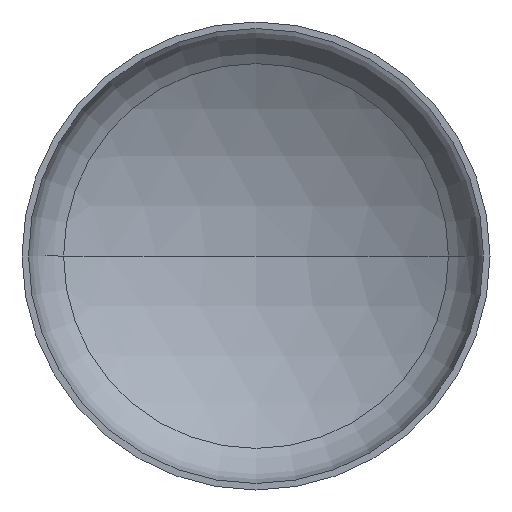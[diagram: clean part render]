
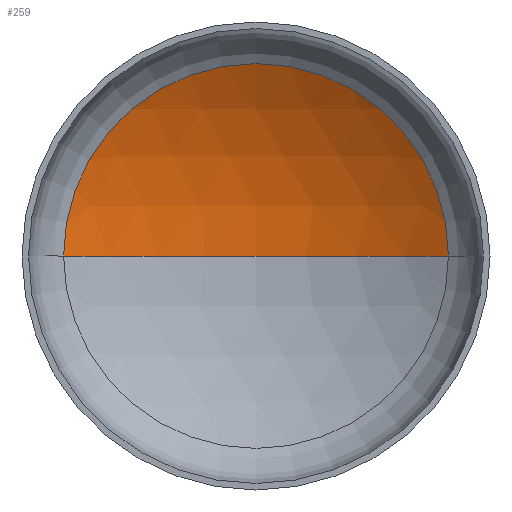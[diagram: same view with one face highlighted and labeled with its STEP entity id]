
A CAD part, front view. The second image highlights one B-rep face of the part: STEP entity #259.
In plain terms, the highlighted spherical face has radius 2880 mm.
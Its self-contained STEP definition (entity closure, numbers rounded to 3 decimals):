
#2 = AXIS2_PLACEMENT_3D ( 'NONE', #154, #156, #247 ) ;
#12 = AXIS2_PLACEMENT_3D ( 'NONE', #172, #29, #176 ) ;
#20 = EDGE_LOOP ( 'NONE', ( #147, #105, #57 ) ) ;
#29 = DIRECTION ( 'NONE',  ( 0., 0., -1. ) ) ;
#33 = AXIS2_PLACEMENT_3D ( 'NONE', #165, #196, #364 ) ;
#35 = AXIS2_PLACEMENT_3D ( 'NONE', #185, #343, #321 ) ;
#37 = VERTEX_POINT ( 'NONE', #355 ) ;
#57 = ORIENTED_EDGE ( 'NONE', *, *, #78, .T. ) ;
#78 = EDGE_CURVE ( 'NONE', #37, #90, #192, .T. ) ;
#90 = VERTEX_POINT ( 'NONE', #184 ) ;
#91 = EDGE_CURVE ( 'NONE', #128, #37, #318, .T. ) ;
#105 = ORIENTED_EDGE ( 'NONE', *, *, #91, .T. ) ;
#128 = VERTEX_POINT ( 'NONE', #208 ) ;
#142 = CIRCLE ( 'NONE', #2, 2880. ) ;
#147 = ORIENTED_EDGE ( 'NONE', *, *, #357, .F. ) ;
#154 = CARTESIAN_POINT ( 'NONE',  ( 0., -1844.392, 0. ) ) ;
#156 = DIRECTION ( 'NONE',  ( 0., 0., 1. ) ) ;
#165 = CARTESIAN_POINT ( 'NONE',  ( 0., -1844.392, 0. ) ) ;
#172 = CARTESIAN_POINT ( 'NONE',  ( 0., -1844.392, 0. ) ) ;
#176 = DIRECTION ( 'NONE',  ( -1., 0., 0. ) ) ;
#184 = CARTESIAN_POINT ( 'NONE',  ( -1480.258, 626.081, 0. ) ) ;
#185 = CARTESIAN_POINT ( 'NONE',  ( 0., 626.081, 0. ) ) ;
#192 = CIRCLE ( 'NONE', #35, 1480.258 ) ;
#196 = DIRECTION ( 'NONE',  ( 0., 0., -1. ) ) ;
#208 = CARTESIAN_POINT ( 'NONE',  ( 0., 1035.608, 0. ) ) ;
#247 = DIRECTION ( 'NONE',  ( 1., 0., 0. ) ) ;
#259 = ADVANCED_FACE ( 'NONE', ( #410 ), #303, .F. ) ;
#303 = SPHERICAL_SURFACE ( 'NONE', #12, 2880. ) ;
#318 = CIRCLE ( 'NONE', #33, 2880. ) ;
#321 = DIRECTION ( 'NONE',  ( 1., 0., 0. ) ) ;
#343 = DIRECTION ( 'NONE',  ( 0., -1., 0. ) ) ;
#355 = CARTESIAN_POINT ( 'NONE',  ( 1480.258, 626.081, 0. ) ) ;
#357 = EDGE_CURVE ( 'NONE', #128, #90, #142, .T. ) ;
#364 = DIRECTION ( 'NONE',  ( -1., 0., 0. ) ) ;
#410 = FACE_OUTER_BOUND ( 'NONE', #20, .T. ) ;
